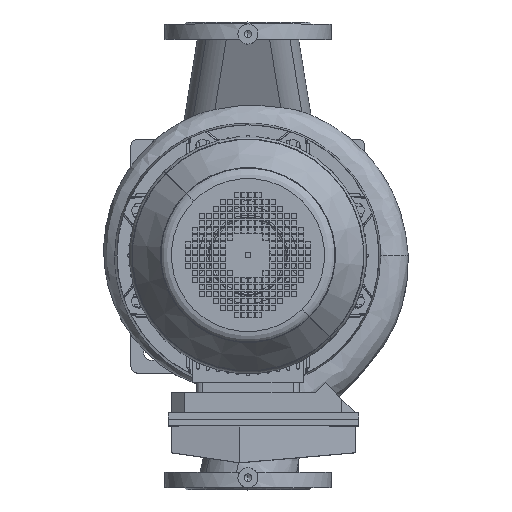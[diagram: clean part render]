
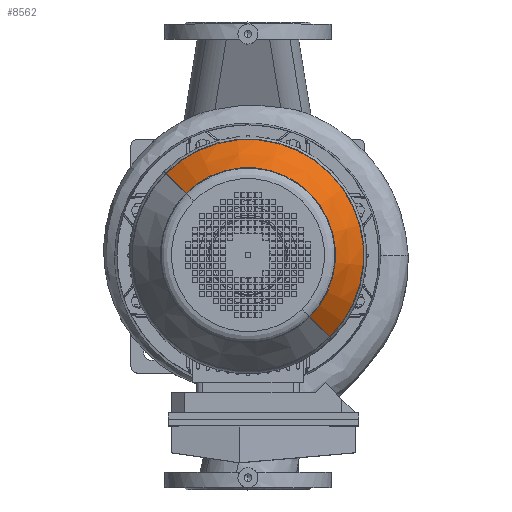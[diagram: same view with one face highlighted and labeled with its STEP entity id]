
A CAD part, top view. The second image highlights one B-rep face of the part: STEP entity #8562.
In plain terms, the highlighted conical face has half-angle 34.992 degrees and reference radius 125 mm.
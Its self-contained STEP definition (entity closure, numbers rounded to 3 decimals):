
#8562=ADVANCED_FACE('',(#20968),#20969,.T.);
#10258=EDGE_CURVE('',#23931,#23932,#23933,.T.);
#10260=EDGE_CURVE('',#23935,#23936,#23937,.T.);
#20968=FACE_OUTER_BOUND('',#39092,.T.);
#20969=CONICAL_SURFACE('',#39093,125.0,0.611);
#23931=VERTEX_POINT('',#42060);
#23932=VERTEX_POINT('',#42061);
#23933=CIRCLE('',#42062,173.885);
#23935=VERTEX_POINT('',#42065);
#23936=VERTEX_POINT('',#42066);
#23937=CIRCLE('',#42067,130.972);
#39092=EDGE_LOOP('',(#67816,#67817,#67818,#67819));
#39093=AXIS2_PLACEMENT_3D('',#67820,#67821,#67822);
#42060=CARTESIAN_POINT('',(173.885,0.,130.165));
#42061=CARTESIAN_POINT('',(-173.885,0.,130.165));
#42062=AXIS2_PLACEMENT_3D('',#76271,#76272,#76273);
#42065=CARTESIAN_POINT('',(-130.972,0.,191.469));
#42066=CARTESIAN_POINT('',(130.972,0.0,191.469));
#42067=AXIS2_PLACEMENT_3D('',#76274,#76275,#76276);
#67816=ORIENTED_EDGE('',*,*,#85804,.F.);
#67817=ORIENTED_EDGE('',*,*,#10258,.F.);
#67818=ORIENTED_EDGE('',*,*,#85805,.F.);
#67819=ORIENTED_EDGE('',*,*,#10260,.F.);
#67820=CARTESIAN_POINT('',(0.0,0.0,200.0));
#67821=DIRECTION('',(-0.0,-0.0,-1.0));
#67822=DIRECTION('',(-1.0,0.0,0.0));
#76271=CARTESIAN_POINT('',(0.0,0.0,130.165));
#76272=DIRECTION('',(0.0,0.0,-1.0));
#76273=DIRECTION('',(1.0,0.,0.0));
#76274=CARTESIAN_POINT('',(0.0,0.0,191.469));
#76275=DIRECTION('',(0.0,0.0,1.0));
#76276=DIRECTION('',(1.0,0.0,0.0));
#85804=EDGE_CURVE('',#23932,#23935,#92621,.T.);
#85805=EDGE_CURVE('',#23936,#23931,#92622,.T.);
#92621=LINE('',#102181,#102182);
#92622=LINE('',#102183,#102184);
#102181=CARTESIAN_POINT('',(-125.0,0.,200.0));
#102182=VECTOR('',#110947,1.0);
#102183=CARTESIAN_POINT('',(125.0,0.,200.0));
#102184=VECTOR('',#110948,1.0);
#110947=DIRECTION('',(0.573,0.,0.819));
#110948=DIRECTION('',(0.573,0.,-0.819));
